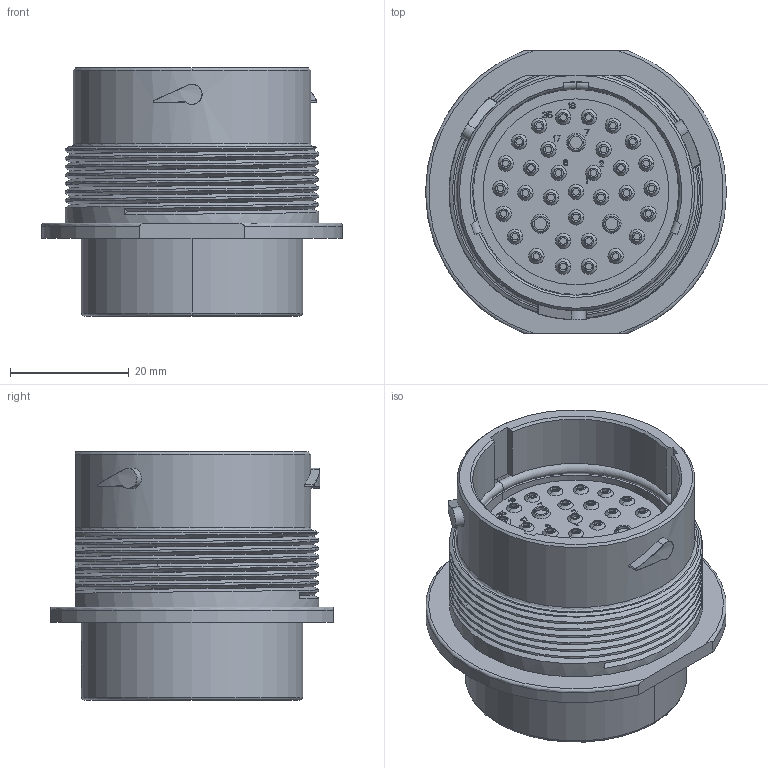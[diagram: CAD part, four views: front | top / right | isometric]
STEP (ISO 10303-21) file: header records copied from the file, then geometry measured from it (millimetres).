
FILE_DESCRIPTION((''),'2;1');
FILE_NAME('C-HDP24-24-35PE','2013-05-13T',('workeradm'),('Tyco Electronics Ltd.'),'PRO/ENGINEER BY PARAMETRIC TECHNOLOGY CORPORATION, 2011490','PRO/ENGINEER BY PARAMETRIC TECHNOLOGY CORPORATION, 2011490','');
FILE_SCHEMA(('AUTOMOTIVE_DESIGN { 1 0 10303 214 1 1 1 1 }'));
Length unit declared in the file: millimetre
Products named in the file (1): C-HDP24-24-35PE
Bounding box: 50.8 x 47.62 x 41.86 mm (x, y, z)
Volume: 41209.2 mm3; surface area: 13351.1 mm2
Topology: 1 solids, 1 shells, 908 faces, 2144 edges, 1399 vertices
Faces by surface type: plane 467, cylinder 247, cone 76, torus 73, bspline 45
Entity records: 46903 total; most frequent: CARTESIAN_POINT 25250, DIRECTION 4522, ORIENTED_EDGE 4288, EDGE_CURVE 2144, AXIS2_PLACEMENT_3D 1640, VERTEX_POINT 1399, VECTOR 1242, LINE 1242
